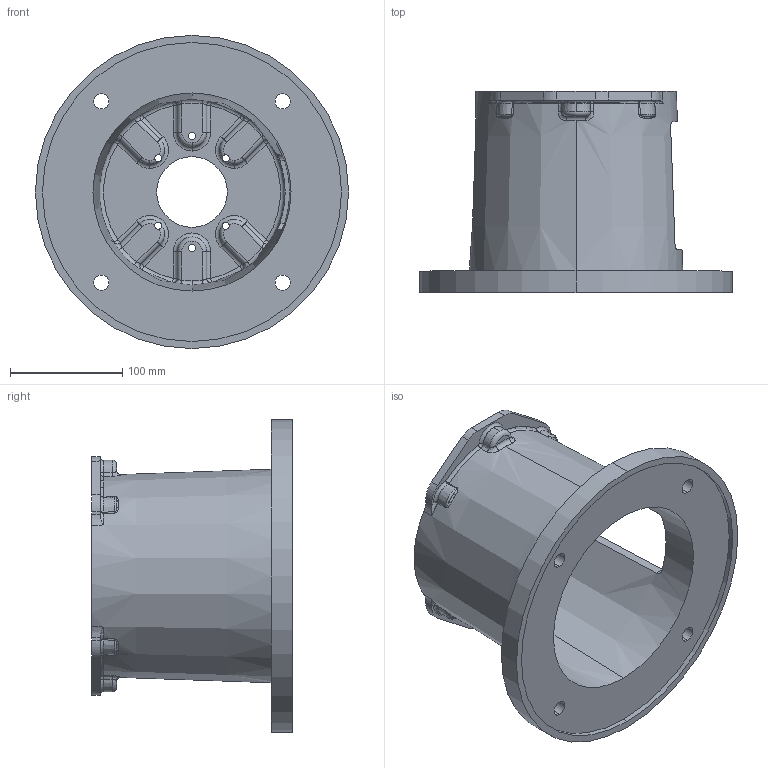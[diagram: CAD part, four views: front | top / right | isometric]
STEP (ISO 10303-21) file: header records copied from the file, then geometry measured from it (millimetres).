
FILE_DESCRIPTION (( 'STEP AP203' ), '1' );
FILE_NAME ('M2846863M.STEP', '2015-01-19T16:28:33', ( '' ), ( '' ), 'SwSTEP 2.0', 'SolidWorks 2014', '' );
FILE_SCHEMA (( 'CONFIG_CONTROL_DESIGN' ));
Length unit declared in the file: inch
Products named in the file (1): M2846863M
Bounding box: 279.4 x 179.32 x 279.4 mm (x, y, z)
Volume: 1429439.6 mm3; surface area: 317805.2 mm2
Topology: 1 solids, 1 shells, 346 faces, 884 edges, 519 vertices
Faces by surface type: torus 105, cylinder 86, bspline 64, plane 45, sphere 24, cone 22
Entity records: 14353 total; most frequent: CARTESIAN_POINT 6372, ORIENTED_EDGE 1728, DIRECTION 1662, EDGE_CURVE 864, AXIS2_PLACEMENT_3D 751, VERTEX_POINT 519, CIRCLE 468, EDGE_LOOP 369
